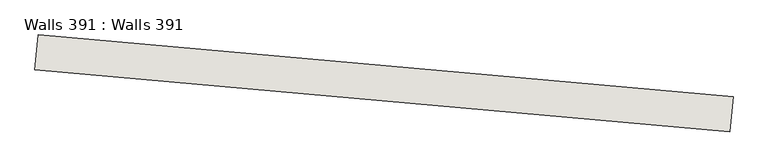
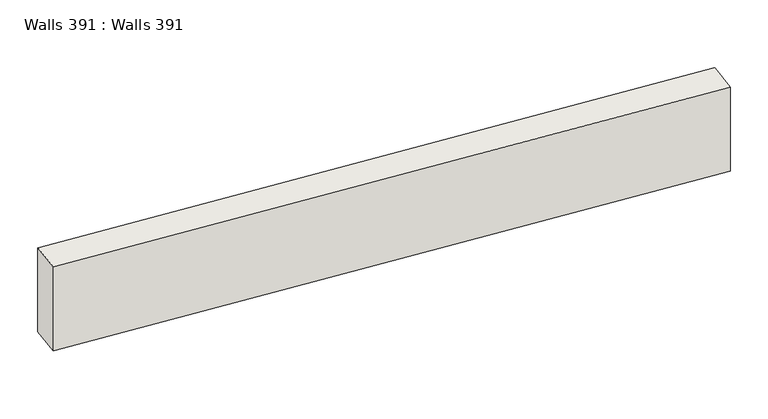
"""IFC4 building model written with IfcOpenShell, lengths in millimetres: wall geometry, Walls 391 : Walls 391."""

from ifc_helpers import new_model, si_unit, frame, origin, place, context, project, spatial, polyline, outline, extrude, source, transform, mapped, element, save


def walls_391_walls_391_14da699c(model_context):
    return source(origin(), model_context, "Body", "SweptSolid", [
        extrude(outline(polyline([(-594949.2296293, -425675.6220126), (-594984.7245593, -426074.0440375), (-602953.1650578, -425364.1454362), (-602917.6701277, -424965.7234113), (-594949.2296293, -425675.6220126)])), frame((0.0, 0.0, 636860.0), z_axis=(0.0, 0.0, 1.0), x_axis=(1.0, 0.0, 0.0)), (0.0, 0.0, 1.0), 1100.0),
    ])


if __name__ == "__main__":
    model = new_model("IFC4")
    model_context = context("Model", 3, world=origin())
    ifc_project = project(units=[si_unit("LENGTHUNIT", "METRE", prefix="MILLI")], contexts=[model_context])
    site = spatial("IfcSite", under=ifc_project)
    building = spatial("IfcBuilding", under=site)
    placement = place(None, origin())
    walls_391_walls_391_shape = walls_391_walls_391_14da699c(model_context)
    element("IfcWall", 1, ObjectType="Walls 391 : Walls 391", at=placement, inside=building, context=model_context, shape_type="MappedRepresentation", body=[
        mapped(walls_391_walls_391_shape, transform((0.0, 0.0, 0.0), x_axis=(1.0, 0.0, 0.0), y_axis=(0.0, 1.0, 0.0), z_axis=(0.0, 0.0, 1.0))),
    ])
    save(model, "model.ifc")
